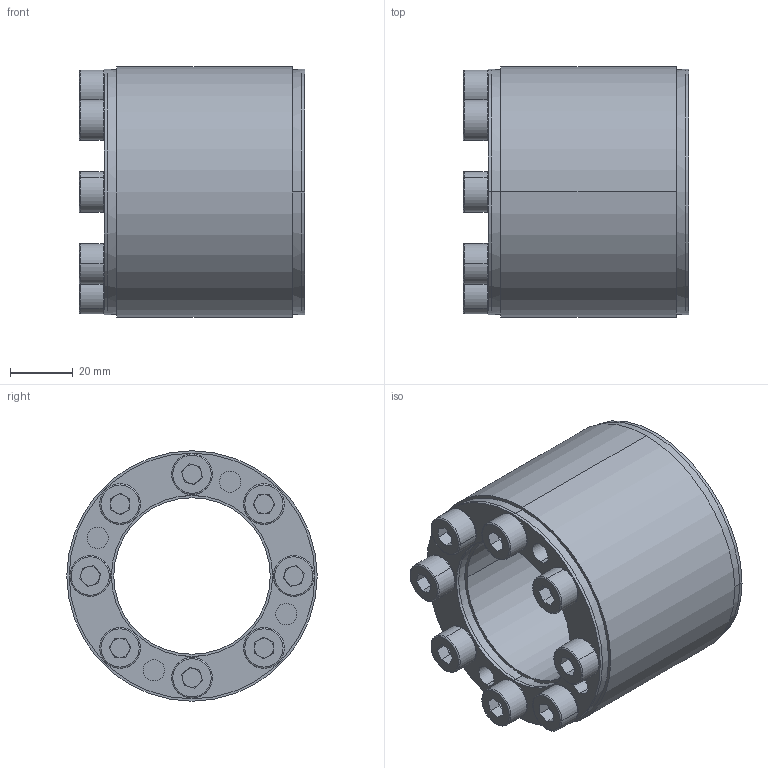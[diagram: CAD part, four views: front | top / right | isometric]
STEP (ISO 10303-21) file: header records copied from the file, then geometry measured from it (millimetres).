
FILE_DESCRIPTION (( 'STEP AP203' ), '1' );
FILE_NAME ('SAPL-D4-50-80.STEP', '2017-11-06T07:43:02', ( 'MYCOM' ), ( '' ), 'SwSTEP 2.0', 'SolidWorks 2015', '' );
FILE_SCHEMA (( 'CONFIG_CONTROL_DESIGN' ));
Length unit declared in the file: millimetre
Products named in the file (1): SAPL-D4-50-80
Bounding box: 72.02 x 80 x 80 mm (x, y, z)
Surface area: 54128.9 mm2 (no closed solid volume)
Topology: 0 solids, 20 shells, 222 faces, 552 edges, 346 vertices
Faces by surface type: plane 112, cylinder 68, torus 32, cone 10
Entity records: 6664 total; most frequent: DIRECTION 1280, CARTESIAN_POINT 1121, ORIENTED_EDGE 982, EDGE_CURVE 552, AXIS2_PLACEMENT_3D 505, VERTEX_POINT 346, CIRCLE 282, LINE 270
